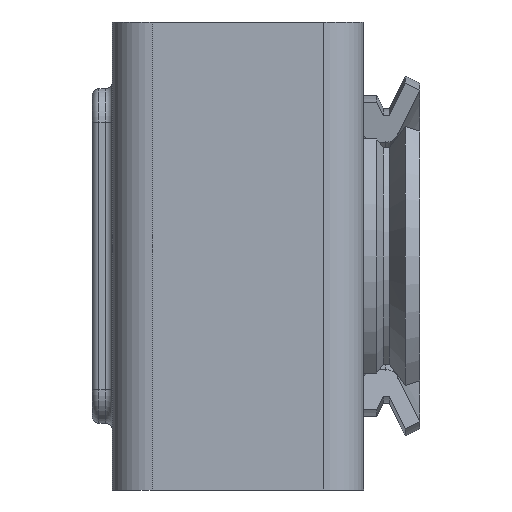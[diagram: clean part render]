
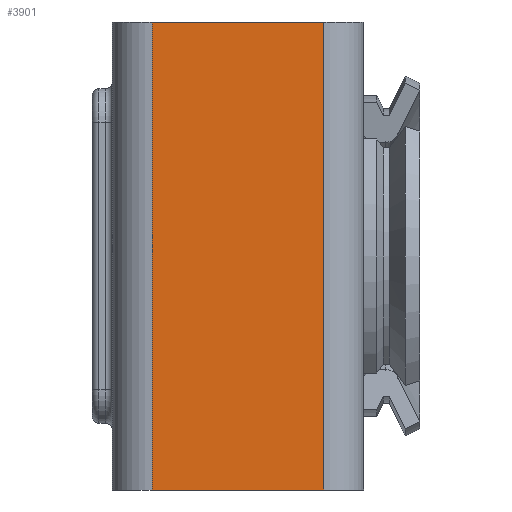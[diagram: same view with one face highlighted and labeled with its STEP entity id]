
A CAD part, left-side view. The second image highlights one B-rep face of the part: STEP entity #3901.
In plain terms, the highlighted planar face has unit normal (-1, 0, 0).
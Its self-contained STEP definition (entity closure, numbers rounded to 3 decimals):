
#843 = DIRECTION ( 'NONE',  ( 1., 0., 0. ) ) ;
#892 = CARTESIAN_POINT ( 'NONE',  ( -3.7, 0.2, -1.75 ) ) ;
#1900 = VERTEX_POINT ( 'NONE', #11929 ) ;
#2076 = DIRECTION ( 'NONE',  ( 0., 0., 1. ) ) ;
#2313 = VERTEX_POINT ( 'NONE', #6855 ) ;
#2442 = ORIENTED_EDGE ( 'NONE', *, *, #8521, .T. ) ;
#2769 = PLANE ( 'NONE',  #9263 ) ;
#3115 = LINE ( 'NONE', #9141, #4214 ) ;
#3901 = ADVANCED_FACE ( 'NONE', ( #11844 ), #2769, .F. ) ;
#4214 = VECTOR ( 'NONE', #10209, 1000. ) ;
#4539 = ORIENTED_EDGE ( 'NONE', *, *, #12956, .F. ) ;
#4627 = DIRECTION ( 'NONE',  ( 0., -1., 0. ) ) ;
#5513 = CARTESIAN_POINT ( 'NONE',  ( -3.7, -1.18, -1.75 ) ) ;
#5523 = CARTESIAN_POINT ( 'NONE',  ( -3.7, 0.2, 1.75 ) ) ;
#5896 = VECTOR ( 'NONE', #9441, 1000. ) ;
#6529 = CARTESIAN_POINT ( 'NONE',  ( -3.7, -1.18, 1.75 ) ) ;
#6845 = VECTOR ( 'NONE', #2076, 1000. ) ;
#6855 = CARTESIAN_POINT ( 'NONE',  ( -3.7, -1.08, 1.75 ) ) ;
#7023 = CARTESIAN_POINT ( 'NONE',  ( -3.7, -1.08, -1.75 ) ) ;
#7975 = DIRECTION ( 'NONE',  ( 0., 0., -1. ) ) ;
#7992 = ORIENTED_EDGE ( 'NONE', *, *, #9503, .T. ) ;
#8294 = ORIENTED_EDGE ( 'NONE', *, *, #9183, .F. ) ;
#8521 = EDGE_CURVE ( 'NONE', #1900, #2313, #11157, .T. ) ;
#9141 = CARTESIAN_POINT ( 'NONE',  ( -3.7, 0.2, -1.75 ) ) ;
#9183 = EDGE_CURVE ( 'NONE', #11966, #2313, #12037, .T. ) ;
#9263 = AXIS2_PLACEMENT_3D ( 'NONE', #13092, #843, #7975 ) ;
#9441 = DIRECTION ( 'NONE',  ( 0., -1., 0. ) ) ;
#9503 = EDGE_CURVE ( 'NONE', #10969, #1900, #9575, .T. ) ;
#9575 = LINE ( 'NONE', #5513, #5896 ) ;
#10156 = VECTOR ( 'NONE', #4627, 1000. ) ;
#10209 = DIRECTION ( 'NONE',  ( 0., 0., 1. ) ) ;
#10969 = VERTEX_POINT ( 'NONE', #892 ) ;
#11157 = LINE ( 'NONE', #7023, #6845 ) ;
#11844 = FACE_OUTER_BOUND ( 'NONE', #11908, .T. ) ;
#11908 = EDGE_LOOP ( 'NONE', ( #7992, #2442, #8294, #4539 ) ) ;
#11929 = CARTESIAN_POINT ( 'NONE',  ( -3.7, -1.08, -1.75 ) ) ;
#11966 = VERTEX_POINT ( 'NONE', #5523 ) ;
#12037 = LINE ( 'NONE', #6529, #10156 ) ;
#12956 = EDGE_CURVE ( 'NONE', #10969, #11966, #3115, .T. ) ;
#13092 = CARTESIAN_POINT ( 'NONE',  ( -3.7, -1.18, -1.75 ) ) ;
